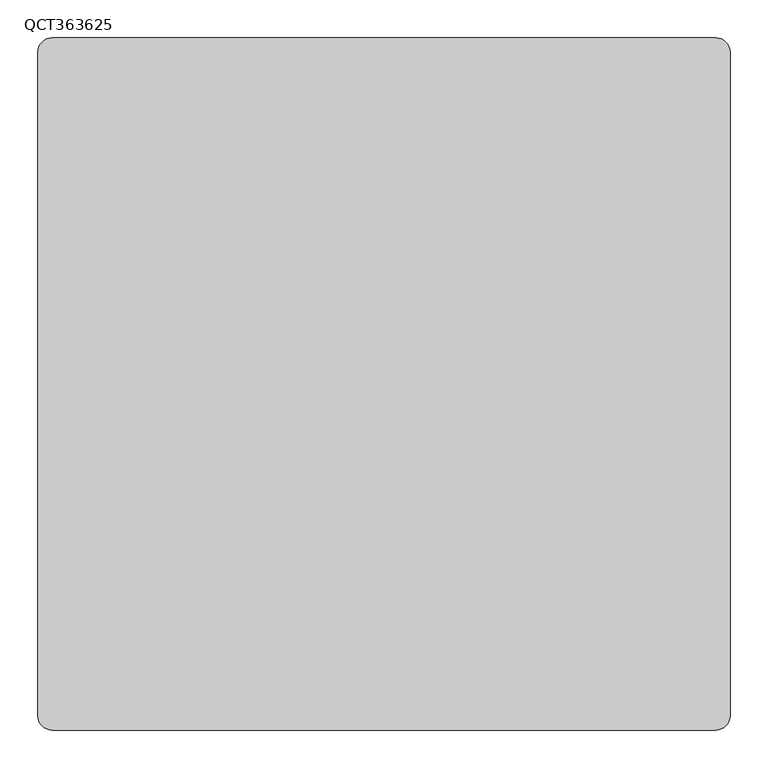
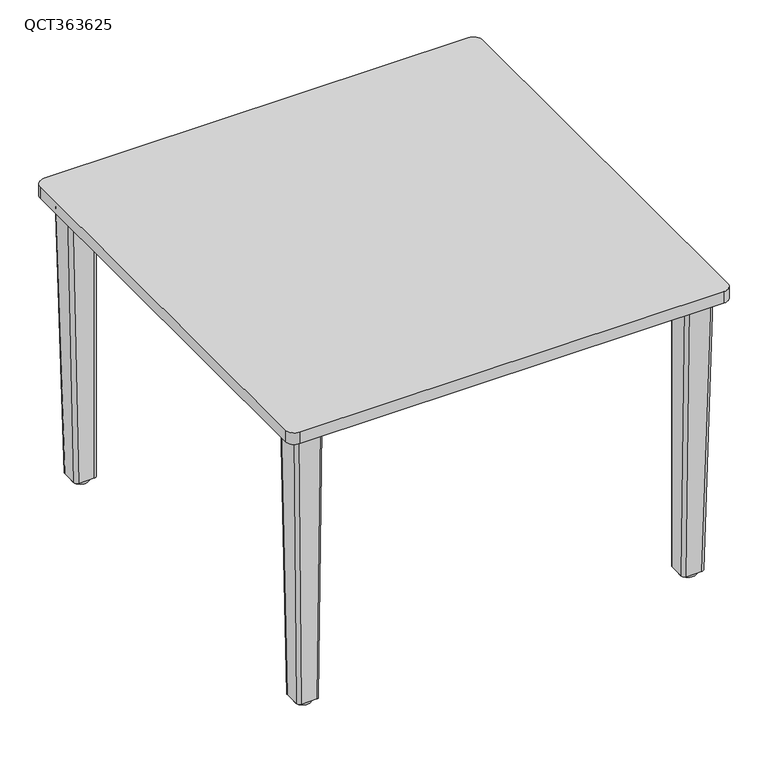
"""IFC4 building model written with IfcOpenShell, lengths in millimetres: furniture geometry, Leland-Quince-Table_Square : QCT363625."""

from ifc_helpers import new_model, si_unit, point, frame, frame_2d, origin, origin_with_axes, place, context, project, spatial, polyline, circle_curve, trimmed, segment, composite_curve, outline, extrude, source, transform, mapped, element, save
from ifc_brep_helpers import plane_surface, cylinder_surface, extruded_surface, advanced_brep


def qct363625_7c22f82d(model_context):
    return source(origin(), model_context, "Body", "SolidModel", [
        advanced_brep(
        [(426.2299122, -375.4482078, 604.8487443), (381.7799122, -375.4482078, 604.8487443), (375.4299122, -381.7982078, 604.8487443), (375.4299122, -426.2482078, 604.8487443), (381.7799122, -432.5982078, 604.8487443), (426.2299122, -432.5982078, 604.8487443), (432.5799122, -426.2482078, 604.8487443), (432.5799122, -381.7982078, 604.8487443), (413.9392552, -375.4482078, 9.5377), (420.2892552, -381.7982078, 9.5377), (420.2892552, -413.9651364, 9.5377), (413.9392552, -420.3151364, 9.5377), (381.7799122, -420.3151364, 9.5377), (375.4299122, -413.9651364, 9.5377), (375.4299122, -381.7982078, 9.5377), (381.7799122, -375.4482078, 9.5377)],
        [
            (0, 1),
            (1, 2, circle_curve(frame((381.7799122, -381.7982078, 604.8487443), z_axis=(0.0, 0.0, 1.0), x_axis=(-1.0, 0.0, 0.0)), 6.35)),
            (2, 3),
            (3, 4, circle_curve(frame((381.7799122, -426.2482078, 604.8487443), z_axis=(0.0, 0.0, 1.0), x_axis=(-1.0, 0.0, 0.0)), 6.35)),
            (4, 5),
            (5, 6, circle_curve(frame((426.2299122, -426.2482078, 604.8487443), z_axis=(0.0, 0.0, 1.0), x_axis=(-1.0, 0.0, 0.0)), 6.35)),
            (6, 7),
            (7, 0, circle_curve(frame((426.2299122, -381.7982078, 604.8487443), z_axis=(0.0, 0.0, 1.0), x_axis=(-1.0, 0.0, 0.0)), 6.35)),
            (8, 9, circle_curve(frame((413.9392552, -381.7982078, 9.5377), z_axis=(0.0, 0.0, -1.0), x_axis=(-1.0, 0.0, 0.0)), 6.35)),
            (9, 10),
            (10, 11, circle_curve(frame((413.9392552, -413.9651364, 9.5377), z_axis=(0.0, 0.0, -1.0), x_axis=(-1.0, 0.0, 0.0)), 6.35)),
            (11, 12),
            (12, 13, circle_curve(frame((381.7799122, -413.9651364, 9.5377), z_axis=(0.0, 0.0, -1.0), x_axis=(-1.0, 0.0, 0.0)), 6.35)),
            (13, 14),
            (14, 15, circle_curve(frame((381.7799122, -381.7982078, 9.5377), z_axis=(0.0, 0.0, -1.0), x_axis=(-1.0, 0.0, 0.0)), 6.35)),
            (15, 8),
            (8, 0),
            (7, 9),
            (6, 10),
            (5, 11),
            (4, 12),
            (3, 13),
            (2, 14),
            (1, 15),
        ],
        [
            plane_surface(frame((404.0049122, -404.0232078, 604.8487443), z_axis=(0.0, 0.0, 1.0), x_axis=(1.0, 0.0, 0.0))),
            plane_surface(frame((397.8595837, -397.8816721, 9.5377), z_axis=(0.0, 0.0, -1.0), x_axis=(1.0, 0.0, 0.0))),
            extruded_surface(trimmed(circle_curve(frame((413.9392552, -381.7982078, 9.5377), z_axis=(0.0, 0.0, 1.0), x_axis=(-1.0, 0.0, 0.0)), 6.35), [point((420.2892552, -381.7982078, 9.5377))], [point((413.9392552, -375.4482078, 9.5377))], True, "CARTESIAN"), (12.29065700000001, 0.0, 595.3110443), 595.4379058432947),
            plane_surface(frame((420.2892552, -397.8816721, 9.5377), z_axis=(0.999786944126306, 0.0, -0.020641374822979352), x_axis=(0.0, 1.0, 0.0))),
            extruded_surface(trimmed(circle_curve(frame((413.9392552, -413.9651364, 9.5377), z_axis=(0.0, 0.0, 1.0), x_axis=(-1.0, 0.0, 0.0)), 6.35), [point((413.9392552, -420.3151364, 9.5377))], [point((420.2892552, -413.9651364, 9.5377))], True, "CARTESIAN"), (12.29065700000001, -12.283071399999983, 595.3110443), 595.5645838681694),
            plane_surface(frame((397.8595837, -420.3151364, 9.5377), z_axis=(0.0, -0.9997872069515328, -0.020628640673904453), x_axis=(1.0, 0.0, 0.0))),
            extruded_surface(trimmed(circle_curve(frame((381.7799122, -413.9651364, 9.5377), z_axis=(0.0, 0.0, 1.0), x_axis=(-1.0, 0.0, 0.0)), 6.35), [point((375.4299122, -413.9651364, 9.5377))], [point((381.7799122, -420.3151364, 9.5377))], True, "CARTESIAN"), (0.0, -12.283071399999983, 595.3110443), 595.4377493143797),
            plane_surface(frame((375.4299122, -397.8816721, 9.5377), z_axis=(-1.0, 0.0, 0.0), x_axis=(0.0, -1.0, 0.0))),
            cylinder_surface(frame((381.7799122, -381.7982078, 9.5377), z_axis=(0.0, 0.0, 1.0), x_axis=(-1.0, 0.0, 0.0)), 6.35),
            plane_surface(frame((397.8595837, -375.4482078, 9.5377), z_axis=(0.0, 1.0, 0.0), x_axis=(-1.0, 0.0, 0.0))),
        ],
        [
            (0, [[1, 2, 3, 4, 5, 6, 7, 8]]),
            (1, [[9, 10, 11, 12, 13, 14, 15, 16]]),
            (2, [[-9, 17, -8, 18]]),
            (3, [[-10, -18, -7, 19]]),
            (4, [[-11, -19, -6, 20]]),
            (5, [[-12, -20, -5, 21]]),
            (6, [[-13, -21, -4, 22]]),
            (7, [[-14, -22, -3, 23]]),
            (8, [[-15, -23, -2, 24]]),
            (9, [[-16, -24, -1, -17]]),
        ],
    ),
        advanced_brep(
        [(-426.2299122, -375.4482078, 604.8487443), (-432.5799122, -381.7982078, 604.8487443), (-432.5799122, -426.2482078, 604.8487443), (-426.2299122, -432.5982078, 604.8487443), (-381.7799122, -432.5982078, 604.8487443), (-375.4299122, -426.2482078, 604.8487443), (-375.4299122, -381.7982078, 604.8487443), (-381.7799122, -375.4482078, 604.8487443), (-413.9392552, -375.4482078, 9.5377), (-381.7799122, -375.4482078, 9.5377), (-375.4299122, -381.7982078, 9.5377), (-375.4299122, -413.9651364, 9.5377), (-381.7799122, -420.3151364, 9.5377), (-413.9392552, -420.3151364, 9.5377), (-420.2892552, -413.9651364, 9.5377), (-420.2892552, -381.7982078, 9.5377)],
        [
            (0, 1, circle_curve(frame((-426.2299122, -381.7982078, 604.8487443), z_axis=(0.0, 0.0, 1.0), x_axis=(1.0, 0.0, 0.0)), 6.35)),
            (1, 2),
            (2, 3, circle_curve(frame((-426.2299122, -426.2482078, 604.8487443), z_axis=(0.0, 0.0, 1.0), x_axis=(1.0, 0.0, 0.0)), 6.35)),
            (3, 4),
            (4, 5, circle_curve(frame((-381.7799122, -426.2482078, 604.8487443), z_axis=(0.0, 0.0, 1.0), x_axis=(1.0, 0.0, 0.0)), 6.35)),
            (5, 6),
            (6, 7, circle_curve(frame((-381.7799122, -381.7982078, 604.8487443), z_axis=(0.0, 0.0, 1.0), x_axis=(0.0, 1.0, 0.0)), 6.35)),
            (7, 0),
            (8, 9),
            (9, 10, circle_curve(frame((-381.7799122, -381.7982078, 9.5377), z_axis=(0.0, 0.0, -1.0), x_axis=(0.0, 1.0, 0.0)), 6.35)),
            (10, 11),
            (11, 12, circle_curve(frame((-381.7799122, -413.9651364, 9.5377), z_axis=(0.0, 0.0, -1.0), x_axis=(1.0, 0.0, 0.0)), 6.35)),
            (12, 13),
            (13, 14, circle_curve(frame((-413.9392552, -413.9651364, 9.5377), z_axis=(0.0, 0.0, -1.0), x_axis=(1.0, 0.0, 0.0)), 6.35)),
            (14, 15),
            (15, 8, circle_curve(frame((-413.9392552, -381.7982078, 9.5377), z_axis=(0.0, 0.0, -1.0), x_axis=(1.0, 0.0, 0.0)), 6.35)),
            (15, 1),
            (0, 8),
            (14, 2),
            (13, 3),
            (12, 4),
            (11, 5),
            (10, 6),
            (9, 7),
        ],
        [
            plane_surface(frame((-404.0049122, -404.0232078, 604.8487443), z_axis=(0.0, 0.0, 1.0), x_axis=(1.0, 0.0, 0.0))),
            plane_surface(frame((-397.8595837, -397.8816721, 9.5377), z_axis=(0.0, 0.0, -1.0), x_axis=(1.0, 0.0, 0.0))),
            extruded_surface(trimmed(circle_curve(frame((-413.9392552, -381.7982078, 9.5377), z_axis=(0.0, 0.0, 1.0), x_axis=(1.0, 0.0, 0.0)), 6.35), [point((-413.9392552, -375.4482078, 9.5377))], [point((-420.2892552, -381.7982078, 9.5377))], True, "CARTESIAN"), (-12.29065700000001, 0.0, 595.3110443), 595.4379058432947),
            plane_surface(frame((-420.2892552, -397.8816721, 9.5377), z_axis=(-0.999786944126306, 0.0, -0.020641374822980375), x_axis=(0.0, -1.0, 0.0))),
            extruded_surface(trimmed(circle_curve(frame((-413.9392552, -413.9651364, 9.5377), z_axis=(0.0, 0.0, 1.0), x_axis=(1.0, 0.0, 0.0)), 6.35), [point((-420.2892552, -413.9651364, 9.5377))], [point((-413.9392552, -420.3151364, 9.5377))], True, "CARTESIAN"), (-12.29065700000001, -12.283071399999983, 595.3110443), 595.5645838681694),
            plane_surface(frame((-397.8595837, -420.3151364, 9.5377), z_axis=(0.0, -0.9997872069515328, -0.020628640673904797), x_axis=(1.0, 0.0, 0.0))),
            extruded_surface(trimmed(circle_curve(frame((-381.7799122, -413.9651364, 9.5377), z_axis=(0.0, 0.0, 1.0), x_axis=(1.0, 0.0, 0.0)), 6.35), [point((-381.7799122, -420.3151364, 9.5377))], [point((-375.4299122, -413.9651364, 9.5377))], True, "CARTESIAN"), (0.0, -12.283071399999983, 595.3110443), 595.4377493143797),
            plane_surface(frame((-375.4299122, -397.8816721, 9.5377), z_axis=(1.0, 0.0, 0.0), x_axis=(0.0, 1.0, 0.0))),
            cylinder_surface(frame((-381.7799122, -381.7982078, 9.5377), z_axis=(0.0, 0.0, 1.0), x_axis=(0.0, 1.0, 0.0)), 6.35),
            plane_surface(frame((-397.8595837, -375.4482078, 9.5377), z_axis=(0.0, 1.0, 0.0), x_axis=(-1.0, 0.0, 0.0))),
        ],
        [
            (0, [[1, 2, 3, 4, 5, 6, 7, 8]]),
            (1, [[9, 10, 11, 12, 13, 14, 15, 16]]),
            (2, [[-16, 17, -1, 18]]),
            (3, [[-15, 19, -2, -17]]),
            (4, [[-14, 20, -3, -19]]),
            (5, [[-13, 21, -4, -20]]),
            (6, [[-12, 22, -5, -21]]),
            (7, [[-11, 23, -6, -22]]),
            (8, [[-10, 24, -7, -23]]),
            (9, [[-9, -18, -8, -24]]),
        ],
    ),
        advanced_brep(
        [(426.2299122, 375.4482078, 604.8487443), (432.5799122, 381.7982078, 604.8487443), (432.5799122, 426.2482078, 604.8487443), (426.2299122, 432.5982078, 604.8487443), (381.7799122, 432.5982078, 604.8487443), (375.4299122, 426.2482078, 604.8487443), (375.4299122, 381.7982078, 604.8487443), (381.7799122, 375.4482078, 604.8487443), (413.9392552, 375.4482078, 9.5377), (381.7799122, 375.4482078, 9.5377), (375.4299122, 381.7982078, 9.5377), (375.4299122, 413.9651364, 9.5377), (381.7799122, 420.3151364, 9.5377), (413.9392552, 420.3151364, 9.5377), (420.2892552, 413.9651364, 9.5377), (420.2892552, 381.7982078, 9.5377)],
        [
            (0, 1, circle_curve(frame((426.2299122, 381.7982078, 604.8487443), z_axis=(0.0, 0.0, 1.0), x_axis=(-1.0, 0.0, 0.0)), 6.35)),
            (1, 2),
            (2, 3, circle_curve(frame((426.2299122, 426.2482078, 604.8487443), z_axis=(0.0, 0.0, 1.0), x_axis=(-1.0, 0.0, 0.0)), 6.35)),
            (3, 4),
            (4, 5, circle_curve(frame((381.7799122, 426.2482078, 604.8487443), z_axis=(0.0, 0.0, 1.0), x_axis=(-1.0, 0.0, 0.0)), 6.35)),
            (5, 6),
            (6, 7, circle_curve(frame((381.7799122, 381.7982078, 604.8487443), z_axis=(0.0, 0.0, 1.0), x_axis=(0.0, -1.0, 0.0)), 6.35)),
            (7, 0),
            (8, 9),
            (9, 10, circle_curve(frame((381.7799122, 381.7982078, 9.5377), z_axis=(0.0, 0.0, -1.0), x_axis=(0.0, -1.0, 0.0)), 6.35)),
            (10, 11),
            (11, 12, circle_curve(frame((381.7799122, 413.9651364, 9.5377), z_axis=(0.0, 0.0, -1.0), x_axis=(-1.0, 0.0, 0.0)), 6.35)),
            (12, 13),
            (13, 14, circle_curve(frame((413.9392552, 413.9651364, 9.5377), z_axis=(0.0, 0.0, -1.0), x_axis=(-1.0, 0.0, 0.0)), 6.35)),
            (14, 15),
            (15, 8, circle_curve(frame((413.9392552, 381.7982078, 9.5377), z_axis=(0.0, 0.0, -1.0), x_axis=(-1.0, 0.0, 0.0)), 6.35)),
            (15, 1),
            (0, 8),
            (14, 2),
            (13, 3),
            (12, 4),
            (11, 5),
            (10, 6),
            (9, 7),
        ],
        [
            plane_surface(frame((404.0049122, 404.0232078, 604.8487443), z_axis=(0.0, 0.0, 1.0), x_axis=(-1.0, 0.0, 0.0))),
            plane_surface(frame((397.8595837, 397.8816721, 9.5377), z_axis=(0.0, 0.0, -1.0), x_axis=(-1.0, 0.0, 0.0))),
            extruded_surface(trimmed(circle_curve(frame((413.9392552, 381.7982078, 9.5377), z_axis=(0.0, 0.0, 1.0), x_axis=(-1.0, 0.0, 0.0)), 6.35), [point((413.9392552, 375.4482078, 9.5377))], [point((420.2892552, 381.7982078, 9.5377))], True, "CARTESIAN"), (12.29065700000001, 0.0, 595.3110443), 595.4379058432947),
            plane_surface(frame((420.2892552, 397.8816721, 9.5377), z_axis=(0.999786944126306, 0.0, -0.020641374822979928), x_axis=(0.0, 1.0, 0.0))),
            extruded_surface(trimmed(circle_curve(frame((413.9392552, 413.9651364, 9.5377), z_axis=(0.0, 0.0, 1.0), x_axis=(-1.0, 0.0, 0.0)), 6.35), [point((420.2892552, 413.9651364, 9.5377))], [point((413.9392552, 420.3151364, 9.5377))], True, "CARTESIAN"), (12.29065700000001, 12.283071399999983, 595.3110443), 595.5645838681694),
            plane_surface(frame((397.8595837, 420.3151364, 9.5377), z_axis=(0.0, 0.9997872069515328, -0.020628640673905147), x_axis=(-1.0, 0.0, 0.0))),
            extruded_surface(trimmed(circle_curve(frame((381.7799122, 413.9651364, 9.5377), z_axis=(0.0, 0.0, 1.0), x_axis=(-1.0, 0.0, 0.0)), 6.35), [point((381.7799122, 420.3151364, 9.5377))], [point((375.4299122, 413.9651364, 9.5377))], True, "CARTESIAN"), (0.0, 12.283071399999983, 595.3110443), 595.4377493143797),
            plane_surface(frame((375.4299122, 397.8816721, 9.5377), z_axis=(-1.0, 0.0, 0.0), x_axis=(0.0, -1.0, 0.0))),
            cylinder_surface(frame((381.7799122, 381.7982078, 9.5377), z_axis=(0.0, 0.0, 1.0), x_axis=(0.0, -1.0, 0.0)), 6.35),
            plane_surface(frame((397.8595837, 375.4482078, 9.5377), z_axis=(0.0, -1.0, 0.0), x_axis=(1.0, 0.0, 0.0))),
        ],
        [
            (0, [[1, 2, 3, 4, 5, 6, 7, 8]]),
            (1, [[9, 10, 11, 12, 13, 14, 15, 16]]),
            (2, [[-16, 17, -1, 18]]),
            (3, [[-15, 19, -2, -17]]),
            (4, [[-14, 20, -3, -19]]),
            (5, [[-13, 21, -4, -20]]),
            (6, [[-12, 22, -5, -21]]),
            (7, [[-11, 23, -6, -22]]),
            (8, [[-10, 24, -7, -23]]),
            (9, [[-9, -18, -8, -24]]),
        ],
    ),
        extrude(outline(composite_curve([segment(trimmed(circle_curve(frame_2d((-397.8595837, 397.8816721)), 16.66875), [point((-414.5283337, 397.8816721))], [point((-381.1908337, 397.8816721))], False, "CARTESIAN"), True, "CONTINUOUS"), segment(trimmed(circle_curve(frame_2d((-397.8595837, 397.8816721)), 16.66875), [point((-381.1908337, 397.8816721))], [point((-414.5283337, 397.8816721))], False, "CARTESIAN"), True, "CONTINUOUS")], self_intersect=False)), origin_with_axes(), (0.0, 0.0, 1.0), 9.5377),
        extrude(outline(composite_curve([segment(trimmed(circle_curve(frame_2d((397.8595837, 397.8816721)), 16.66875), [point((381.1908337, 397.8816721))], [point((414.5283337, 397.8816721))], False, "CARTESIAN"), True, "CONTINUOUS"), segment(trimmed(circle_curve(frame_2d((397.8595837, 397.8816721)), 16.66875), [point((414.5283337, 397.8816721))], [point((381.1908337, 397.8816721))], False, "CARTESIAN"), True, "CONTINUOUS")], self_intersect=False)), origin_with_axes(), (0.0, 0.0, 1.0), 9.5377),
        extrude(outline(composite_curve([segment(trimmed(circle_curve(frame_2d((-397.8595837, -397.8816721)), 16.66875), [point((-414.5283337, -397.8816721))], [point((-381.1908337, -397.8816721))], False, "CARTESIAN"), True, "CONTINUOUS"), segment(trimmed(circle_curve(frame_2d((-397.8595837, -397.8816721)), 16.66875), [point((-381.1908337, -397.8816721))], [point((-414.5283337, -397.8816721))], False, "CARTESIAN"), True, "CONTINUOUS")], self_intersect=False)), origin_with_axes(), (0.0, 0.0, 1.0), 9.5377),
        extrude(outline(composite_curve([segment(trimmed(circle_curve(frame_2d((397.8595837, -397.8816721)), 16.66875), [point((381.1908337, -397.8816721))], [point((414.5283337, -397.8816721))], False, "CARTESIAN"), True, "CONTINUOUS"), segment(trimmed(circle_curve(frame_2d((397.8595837, -397.8816721)), 16.66875), [point((414.5283337, -397.8816721))], [point((381.1908337, -397.8816721))], False, "CARTESIAN"), True, "CONTINUOUS")], self_intersect=False)), origin_with_axes(), (0.0, 0.0, 1.0), 9.5377),
        extrude(outline(polyline([(-327.81875, 429.41875), (-327.81875, 327.81875), (-429.41875, 327.81875), (-429.41875, 429.41875), (-327.81875, 429.41875)])), frame((0.0, 0.0, 604.8487443), z_axis=(0.0, 0.0, 1.0), x_axis=(1.0, 0.0, 0.0)), (0.0, 0.0, 1.0), 4.7625),
        extrude(outline(polyline([(327.81875, 429.41875), (429.41875, 429.41875), (429.41875, 327.81875), (327.81875, 327.81875), (327.81875, 429.41875)])), frame((0.0, 0.0, 604.8487443), z_axis=(0.0, 0.0, 1.0), x_axis=(1.0, 0.0, 0.0)), (0.0, 0.0, 1.0), 4.7625),
        extrude(outline(polyline([(-327.81875, -429.41875), (-429.41875, -429.41875), (-429.41875, -327.81875), (-327.81875, -327.81875), (-327.81875, -429.41875)])), frame((0.0, 0.0, 604.8487443), z_axis=(0.0, 0.0, 1.0), x_axis=(1.0, 0.0, 0.0)), (0.0, 0.0, 1.0), 4.7625),
        extrude(outline(polyline([(327.81875, -429.41875), (327.81875, -327.81875), (429.41875, -327.81875), (429.41875, -429.41875), (327.81875, -429.41875)])), frame((0.0, 0.0, 604.8487443), z_axis=(0.0, 0.0, 1.0), x_axis=(1.0, 0.0, 0.0)), (0.0, 0.0, 1.0), 4.7625),
        advanced_brep(
        [(-426.2299122, 375.4482078, 604.8487443), (-381.7799122, 375.4482078, 604.8487443), (-375.4299122, 381.7982078, 604.8487443), (-375.4299122, 426.2482078, 604.8487443), (-381.7799122, 432.5982078, 604.8487443), (-426.2299122, 432.5982078, 604.8487443), (-432.5799122, 426.2482078, 604.8487443), (-432.5799122, 381.7982078, 604.8487443), (-413.9392552, 375.4482078, 9.5377), (-420.2892552, 381.7982078, 9.5377), (-420.2892552, 413.9651364, 9.5377), (-413.9392552, 420.3151364, 9.5377), (-381.7799122, 420.3151364, 9.5377), (-375.4299122, 413.9651364, 9.5377), (-375.4299122, 381.7982078, 9.5377), (-381.7799122, 375.4482078, 9.5377)],
        [
            (0, 1),
            (1, 2, circle_curve(frame((-381.7799122, 381.7982078, 604.8487443), z_axis=(0.0, 0.0, 1.0), x_axis=(1.0, 0.0, 0.0)), 6.35)),
            (2, 3),
            (3, 4, circle_curve(frame((-381.7799122, 426.2482078, 604.8487443), z_axis=(0.0, 0.0, 1.0), x_axis=(1.0, 0.0, 0.0)), 6.35)),
            (4, 5),
            (5, 6, circle_curve(frame((-426.2299122, 426.2482078, 604.8487443), z_axis=(0.0, 0.0, 1.0), x_axis=(1.0, 0.0, 0.0)), 6.35)),
            (6, 7),
            (7, 0, circle_curve(frame((-426.2299122, 381.7982078, 604.8487443), z_axis=(0.0, 0.0, 1.0), x_axis=(1.0, 0.0, 0.0)), 6.35)),
            (8, 9, circle_curve(frame((-413.9392552, 381.7982078, 9.5377), z_axis=(0.0, 0.0, -1.0), x_axis=(1.0, 0.0, 0.0)), 6.35)),
            (9, 10),
            (10, 11, circle_curve(frame((-413.9392552, 413.9651364, 9.5377), z_axis=(0.0, 0.0, -1.0), x_axis=(1.0, 0.0, 0.0)), 6.35)),
            (11, 12),
            (12, 13, circle_curve(frame((-381.7799122, 413.9651364, 9.5377), z_axis=(0.0, 0.0, -1.0), x_axis=(1.0, 0.0, 0.0)), 6.35)),
            (13, 14),
            (14, 15, circle_curve(frame((-381.7799122, 381.7982078, 9.5377), z_axis=(0.0, 0.0, -1.0), x_axis=(1.0, 0.0, 0.0)), 6.35)),
            (15, 8),
            (8, 0),
            (7, 9),
            (6, 10),
            (5, 11),
            (4, 12),
            (3, 13),
            (2, 14),
            (1, 15),
        ],
        [
            plane_surface(frame((-404.0049122, 404.0232078, 604.8487443), z_axis=(0.0, 0.0, 1.0), x_axis=(-1.0, 0.0, 0.0))),
            plane_surface(frame((-397.8595837, 397.8816721, 9.5377), z_axis=(0.0, 0.0, -1.0), x_axis=(-1.0, 0.0, 0.0))),
            extruded_surface(trimmed(circle_curve(frame((-413.9392552, 381.7982078, 9.5377), z_axis=(0.0, 0.0, 1.0), x_axis=(1.0, 0.0, 0.0)), 6.35), [point((-420.2892552, 381.7982078, 9.5377))], [point((-413.9392552, 375.4482078, 9.5377))], True, "CARTESIAN"), (-12.29065700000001, 0.0, 595.3110443), 595.4379058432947),
            plane_surface(frame((-420.2892552, 397.8816721, 9.5377), z_axis=(-0.999786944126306, 0.0, -0.020641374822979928), x_axis=(0.0, -1.0, 0.0))),
            extruded_surface(trimmed(circle_curve(frame((-413.9392552, 413.9651364, 9.5377), z_axis=(0.0, 0.0, 1.0), x_axis=(1.0, 0.0, 0.0)), 6.35), [point((-413.9392552, 420.3151364, 9.5377))], [point((-420.2892552, 413.9651364, 9.5377))], True, "CARTESIAN"), (-12.29065700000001, 12.283071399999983, 595.3110443), 595.5645838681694),
            plane_surface(frame((-397.8595837, 420.3151364, 9.5377), z_axis=(0.0, 0.9997872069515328, -0.02062864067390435), x_axis=(-1.0, 0.0, 0.0))),
            extruded_surface(trimmed(circle_curve(frame((-381.7799122, 413.9651364, 9.5377), z_axis=(0.0, 0.0, 1.0), x_axis=(1.0, 0.0, 0.0)), 6.35), [point((-375.4299122, 413.9651364, 9.5377))], [point((-381.7799122, 420.3151364, 9.5377))], True, "CARTESIAN"), (0.0, 12.283071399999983, 595.3110443), 595.4377493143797),
            plane_surface(frame((-375.4299122, 397.8816721, 9.5377), z_axis=(1.0, 0.0, 0.0), x_axis=(0.0, 1.0, 0.0))),
            cylinder_surface(frame((-381.7799122, 381.7982078, 9.5377), z_axis=(0.0, 0.0, 1.0), x_axis=(1.0, 0.0, 0.0)), 6.35),
            plane_surface(frame((-397.8595837, 375.4482078, 9.5377), z_axis=(0.0, -1.0, 0.0), x_axis=(1.0, 0.0, 0.0))),
        ],
        [
            (0, [[1, 2, 3, 4, 5, 6, 7, 8]]),
            (1, [[9, 10, 11, 12, 13, 14, 15, 16]]),
            (2, [[-9, 17, -8, 18]]),
            (3, [[-10, -18, -7, 19]]),
            (4, [[-11, -19, -6, 20]]),
            (5, [[-12, -20, -5, 21]]),
            (6, [[-13, -21, -4, 22]]),
            (7, [[-14, -22, -3, 23]]),
            (8, [[-15, -23, -2, 24]]),
            (9, [[-16, -24, -1, -17]]),
        ],
    ),
        extrude(outline(composite_curve([segment(trimmed(circle_curve(frame_2d((438.15, 438.15)), 19.05), [point((438.15, 457.2))], [point((457.2, 438.15))], False, "CARTESIAN"), True, "CONTINUOUS"), segment(polyline([(457.2, 438.15), (457.2, -438.15)]), True, "CONTINUOUS"), segment(trimmed(circle_curve(frame_2d((438.15, -438.15)), 19.05), [point((457.2, -438.15))], [point((438.15, -457.2))], False, "CARTESIAN"), True, "CONTINUOUS"), segment(polyline([(438.15, -457.2), (-438.15, -457.2)]), True, "CONTINUOUS"), segment(trimmed(circle_curve(frame_2d((-438.15, -438.15)), 19.05), [point((-438.15, -457.2))], [point((-457.2, -438.15))], False, "CARTESIAN"), True, "CONTINUOUS"), segment(polyline([(-457.2, -438.15), (-457.2, 438.15)]), True, "CONTINUOUS"), segment(trimmed(circle_curve(frame_2d((-438.15, 438.15)), 19.05), [point((-457.2, 438.15))], [point((-438.15, 457.2))], False, "CARTESIAN"), True, "CONTINUOUS"), segment(polyline([(-438.15, 457.2), (438.15, 457.2)]), True, "CONTINUOUS")], self_intersect=False)), frame((0.0, 0.0, 609.6112443), z_axis=(0.0, 0.0, 1.0), x_axis=(1.0, 0.0, 0.0)), (0.0, 0.0, 1.0), 25.3887557),
    ])


if __name__ == "__main__":
    model = new_model("IFC4")
    model_context = context("Model", 3, world=origin())
    ifc_project = project(units=[si_unit("LENGTHUNIT", "METRE", prefix="MILLI")], contexts=[model_context])
    site = spatial("IfcSite", under=ifc_project)
    building = spatial("IfcBuilding", under=site)
    placement = place(None, origin())
    qct363625_shape = qct363625_7c22f82d(model_context)
    element("IfcFurniture", 1, ObjectType="Leland-Quince-Table_Square : QCT363625", at=placement, inside=building, context=model_context, shape_type="MappedRepresentation", body=[
        mapped(qct363625_shape, transform((0.0, 0.0, 0.0), x_axis=(1.0, 0.0, 0.0), y_axis=(0.0, 1.0, 0.0), z_axis=(0.0, 0.0, 1.0))),
    ])
    save(model, "model.ifc")
